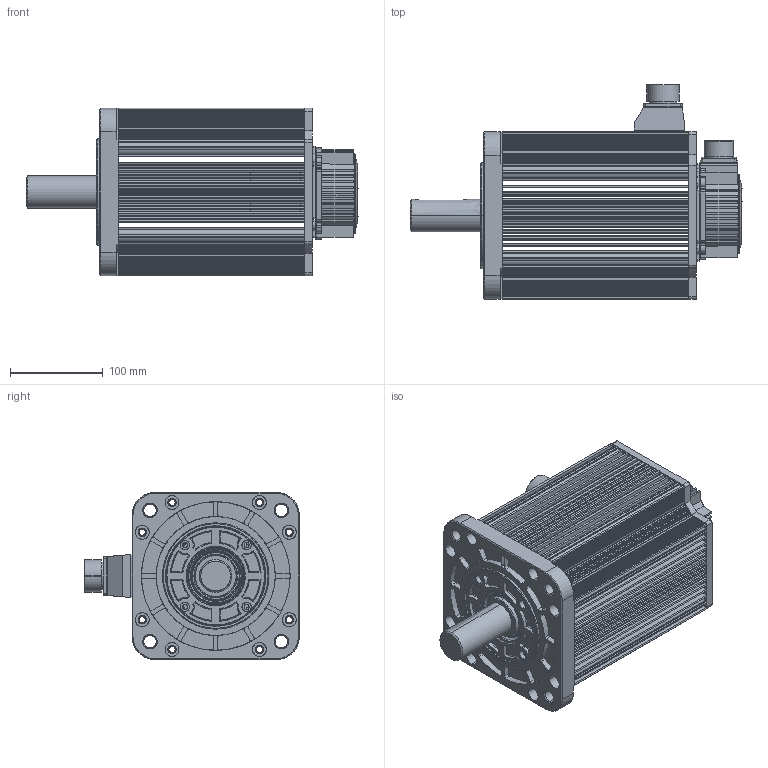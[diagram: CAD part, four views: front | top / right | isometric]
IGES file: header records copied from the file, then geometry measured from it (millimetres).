
Start section: SolidWorks IGES file using analytic representation for surfaces
Global section: file name: E:\est2012\d\17年任务\2017.01.04 外海需求电机3D图升级归档\EMG-50AFA22\EMG-50(APA22,ASA22,AFA22)without holding brake.IGS,15HSolidWorks; native system: 2015; preprocessor: SolidWorks 2015; author: hongyunting; date: 170106.145803; units: millimetre
Bounding box: 357.2 x 231 x 180 mm (x, y, z)
Surface area: 417365.3 mm2 (no closed solid volume)
Topology: 0 solids, 0 shells, 1595 faces, 18582 edges, 18582 vertices
Faces by surface type: revolution 828, bspline 767
